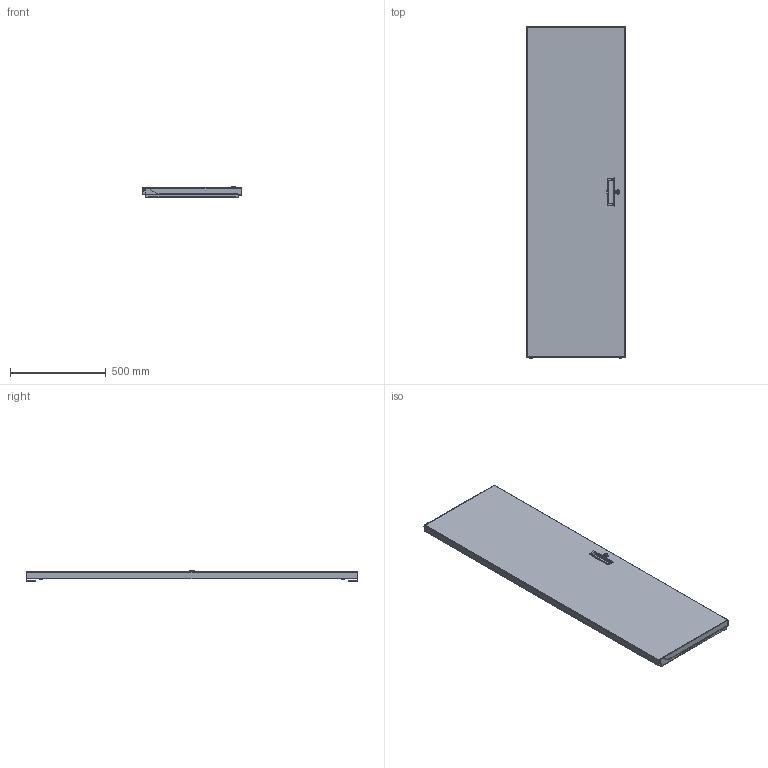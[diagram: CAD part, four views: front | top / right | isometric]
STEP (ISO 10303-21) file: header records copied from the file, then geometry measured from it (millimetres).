
FILE_DESCRIPTION((''),'2;1');
FILE_NAME('DO-5-37_ASM','2023-12-28T',('mrodri2d'),('Middle Atlantic Products'),'CREO PARAMETRIC BY PTC INC, 2018360','CREO PARAMETRIC BY PTC INC, 2018360','');
FILE_SCHEMA(('CONFIG_CONTROL_DESIGN'));
Length unit declared in the file: inch
Products named in the file (13): B537D; 500-00769; 500-00069; SC-1_125; LOCKCLIP; 80-050; B5DB_1; 85-009-1; P5DB1_ASM; B5DB_2; P5DB2_ASM; 91-036; DO-5-37_ASM
Assembly tree (14 placements, depth 3):
  DO-5-37_ASM
    B537D
    500-00769
    500-00069
    SC-1_125
    LOCKCLIP
    80-050  x2
    P5DB1_ASM
      B5DB_1
      85-009-1
    P5DB2_ASM
      B5DB_2
      85-009-1
    91-036
Bounding box: 517.52 x 1735.94 x 55.73 mm (x, y, z)
Volume: 1865732.4 mm3; surface area: 2353736.8 mm2
Topology: 11 solids, 22 shells, 692 faces, 1753 edges, 1088 vertices
Faces by surface type: plane 321, cylinder 254, bspline 45, torus 38, sphere 19, cone 15
Entity records: 25454 total; most frequent: CARTESIAN_POINT 9537, ORIENTED_EDGE 3295, DIRECTION 3126, EDGE_CURVE 1677, AXIS2_PLACEMENT_3D 1080, VERTEX_POINT 1053, VECTOR 966, LINE 966
